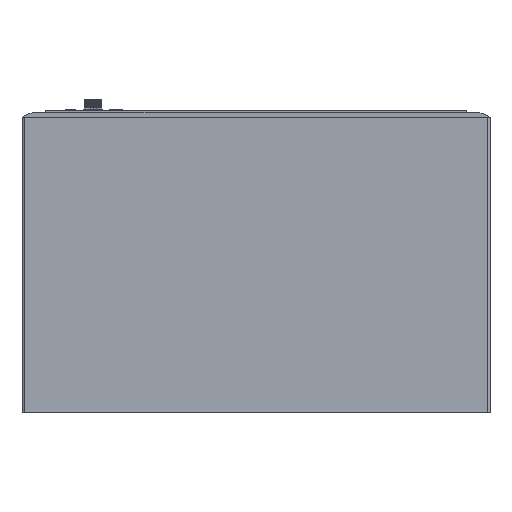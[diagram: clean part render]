
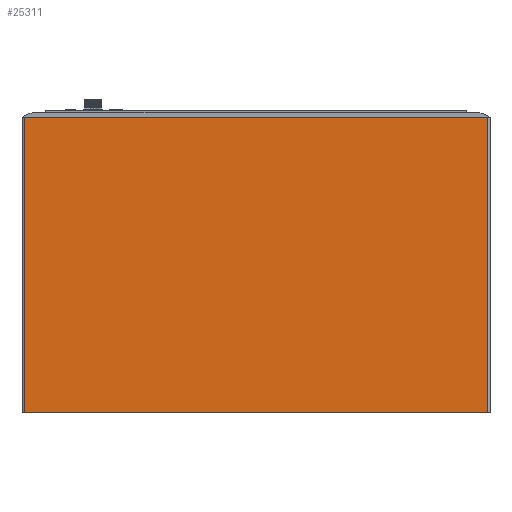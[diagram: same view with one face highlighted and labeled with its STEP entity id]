
A CAD part, front view. The second image highlights one B-rep face of the part: STEP entity #25311.
In plain terms, the highlighted planar face has unit normal (0, -1, 0).
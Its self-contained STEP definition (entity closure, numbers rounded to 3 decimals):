
#1553=PLANE('',#27244);
#2592=FACE_OUTER_BOUND('',#4496,.T.);
#4496=EDGE_LOOP('',(#18190,#18191,#18192,#18193));
#6517=LINE('',#36641,#8719);
#6522=LINE('',#36669,#8724);
#6524=LINE('',#36685,#8726);
#6525=LINE('',#36687,#8727);
#8719=VECTOR('',#29816,10.);
#8724=VECTOR('',#29845,10.);
#8726=VECTOR('',#29863,10.);
#8727=VECTOR('',#29866,10.);
#12007=VERTEX_POINT('',#36638);
#12008=VERTEX_POINT('',#36640);
#12018=VERTEX_POINT('',#36666);
#12019=VERTEX_POINT('',#36668);
#14569=EDGE_CURVE('',#12007,#12008,#6517,.T.);
#14583=EDGE_CURVE('',#12018,#12019,#6522,.T.);
#14592=EDGE_CURVE('',#12008,#12018,#6524,.T.);
#14593=EDGE_CURVE('',#12019,#12007,#6525,.T.);
#18190=ORIENTED_EDGE('',*,*,#14592,.F.);
#18191=ORIENTED_EDGE('',*,*,#14569,.F.);
#18192=ORIENTED_EDGE('',*,*,#14593,.F.);
#18193=ORIENTED_EDGE('',*,*,#14583,.F.);
#25311=ADVANCED_FACE('',(#2592),#1553,.T.);
#27244=AXIS2_PLACEMENT_3D('',#36686,#29864,#29865);
#29816=DIRECTION('',(-1.,0.,0.));
#29845=DIRECTION('',(1.,0.,0.));
#29863=DIRECTION('',(0.,0.,1.));
#29864=DIRECTION('center_axis',(0.,-1.,0.));
#29865=DIRECTION('ref_axis',(0.,0.,-1.));
#29866=DIRECTION('',(0.,0.,-1.));
#36638=CARTESIAN_POINT('',(201.,0.,0.));
#36640=CARTESIAN_POINT('',(-201.,0.,0.));
#36641=CARTESIAN_POINT('',(0.,0.,0.));
#36666=CARTESIAN_POINT('',(-201.,0.,256.6));
#36668=CARTESIAN_POINT('',(201.,0.,256.6));
#36669=CARTESIAN_POINT('',(0.,0.,256.6));
#36685=CARTESIAN_POINT('',(-201.,0.,192.45));
#36686=CARTESIAN_POINT('Origin',(0.,0.,256.6));
#36687=CARTESIAN_POINT('',(201.,0.,192.45));
